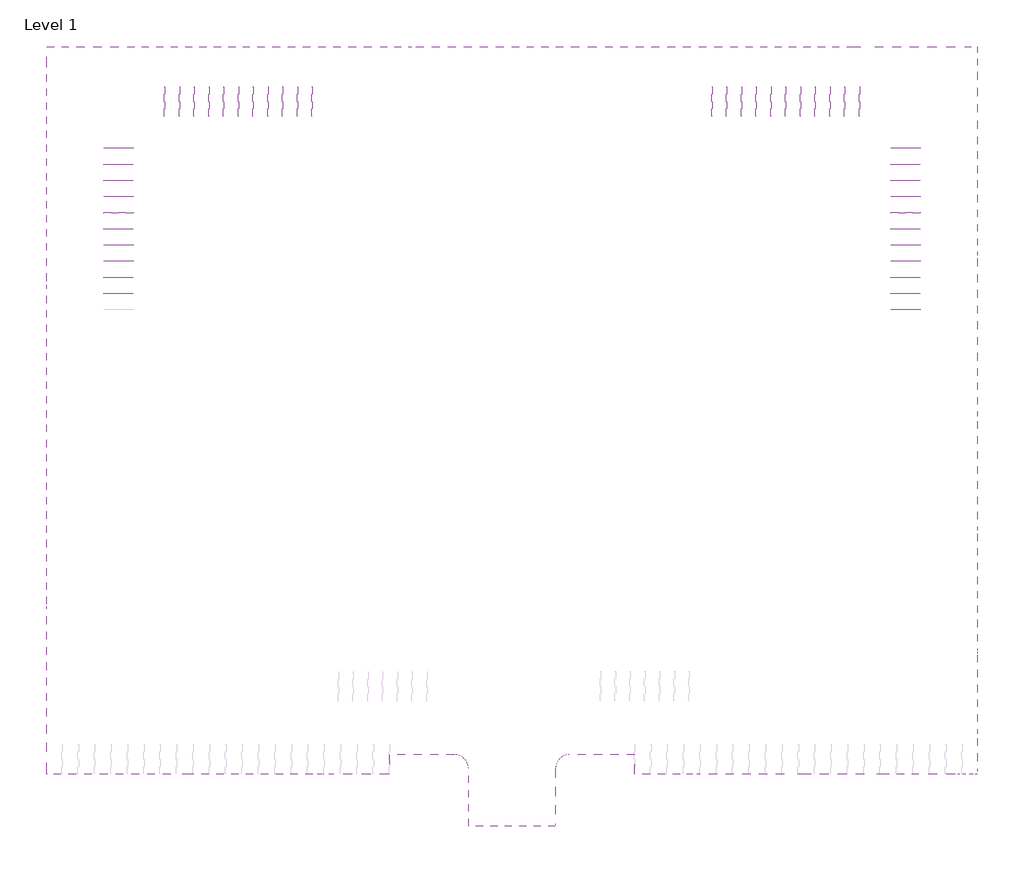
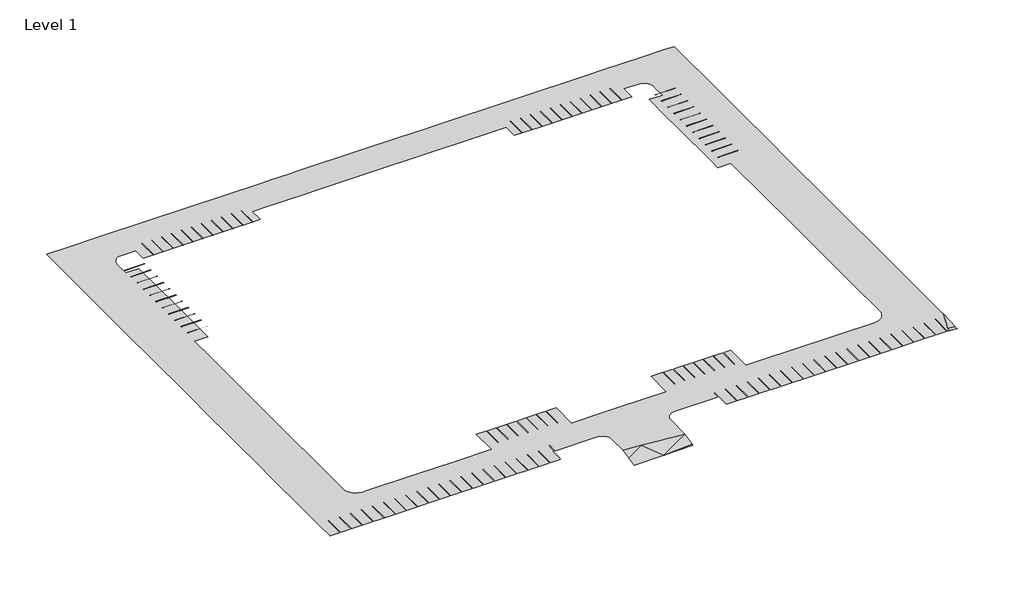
# One storey, part 2 of 2: 44 proxies.
"""IFC4 building model written with IfcOpenShell, lengths in millimetres."""

import ifcopenshell
import ifcopenshell.guid

model = None  # the IFC model being written
_history = None  # IfcOwnerHistory: only IFC2X3 demands one
_inside = {}  # id of a spatial element -> (the spatial element, [elements in it])
_under = {}  # id of a project, library or spatial element -> (it, [spatial elements below it])
_declared = {}  # id of a project -> (the project, [libraries it declares])
_typed = {}  # id of a type object -> (the type object, [elements of that type])
_made_of = {}  # id of a material, layer set ... -> (it, [elements and type objects made of it])


def new_model(schema):
    """Start an empty IFC model of exactly this schema.

    Asked for "IFC4X3", IfcOpenShell would pick the latest addendum, in which some entities
    have other attributes; the version numbers below select the first issue.
    IFC2X3 requires an IfcOwnerHistory on every rooted entity: one is made here for all.
    """
    global model, _history
    if schema == "IFC4X3":
        model = ifcopenshell.file(schema_version=(4, 3, 0, 0))
    else:
        model = ifcopenshell.file(schema=schema)
    _inside.clear()
    _under.clear()
    _declared.clear()
    _typed.clear()
    _made_of.clear()
    _history = None
    if model.schema == "IFC2X3":
        org = make("IfcOrganization", Name="unknown")
        user = make(
            "IfcPersonAndOrganization",
            ThePerson=make("IfcPerson", FamilyName="unknown"),
            TheOrganization=org,
        )
        app = make(
            "IfcApplication",
            ApplicationDeveloper=org,
            Version="unknown",
            ApplicationFullName="unknown",
            ApplicationIdentifier="unknown",
        )
        _history = make(
            "IfcOwnerHistory",
            OwningUser=user,
            OwningApplication=app,
            ChangeAction="ADDED",
            CreationDate=0,
        )
    return model


def make(cls, **values):
    """One entity of the class cls with the attributes given. An attribute that is None is left unset."""
    return model.create_entity(
        cls, **{name: value for name, value in values.items() if value is not None}
    )


def rooted(cls, **values):
    """An entity with a GlobalId (a new one), such as an element, a storey or a relation."""
    return make(cls, GlobalId=ifcopenshell.guid.new(), OwnerHistory=_history, **values)


def si_unit(unit_type, name, prefix=None):
    """IfcSIUnit, for example si_unit("LENGTHUNIT", "METRE", prefix="MILLI")."""
    return make("IfcSIUnit", UnitType=unit_type, Prefix=prefix, Name=name)


def assignment(units):
    """IfcUnitAssignment: the units of a project."""
    return None if units is None else make("IfcUnitAssignment", Units=units)


def point(xyz):
    """IfcCartesianPoint."""
    return None if xyz is None else make("IfcCartesianPoint", Coordinates=xyz)


def direction(xyz):
    """IfcDirection."""
    return None if xyz is None else make("IfcDirection", DirectionRatios=xyz)


def frame(location, z_axis=None, x_axis=None):
    """IfcAxis2Placement3D, a coordinate frame: its origin and axes. An axis left out is left unset."""
    return make(
        "IfcAxis2Placement3D",
        Location=point(location),
        Axis=direction(z_axis),
        RefDirection=direction(x_axis),
    )


def origin():
    """The frame at (0, 0, 0) with its axes left unset."""
    return frame((0.0, 0.0, 0.0))


def origin_with_axes():
    """The frame at (0, 0, 0) with the z axis (0, 0, 1) and the x axis (1, 0, 0) written out."""
    return frame((0.0, 0.0, 0.0), z_axis=(0.0, 0.0, 1.0), x_axis=(1.0, 0.0, 0.0))


def place(relative_to, where):
    """IfcLocalPlacement: puts the frame where relative to a parent placement (None: the world)."""
    return make(
        "IfcLocalPlacement", PlacementRelTo=relative_to, RelativePlacement=where
    )


def context(
    kind, dimensions, precision=None, world=None, true_north=None, identifier=None
):
    """IfcGeometricRepresentationContext, for example the 3D "Model" context."""
    return make(
        "IfcGeometricRepresentationContext",
        ContextIdentifier=identifier,
        ContextType=kind,
        CoordinateSpaceDimension=dimensions,
        Precision=precision,
        WorldCoordinateSystem=world,
        TrueNorth=true_north,
    )


def project(units=None, contexts=None):
    """IfcProject with its units and contexts."""
    return rooted(
        "IfcProject",
        Name="project",
        RepresentationContexts=contexts,
        UnitsInContext=assignment(units),
    )


def spatial(cls, under=None, at=None, **own):
    """A site, building, storey or space (cls), placed at a placement, below another one or the project."""
    s = rooted(cls, ObjectPlacement=at, **own)
    if under is not None:
        _under.setdefault(under.id(), (under, []))[1].append(s)
    return s


def polyline(points):
    """IfcPolyline through the points."""
    return make("IfcPolyline", Points=[point(p) for p in points])


def point_list(points):
    """IfcCartesianPointList2D or 3D."""
    cls = (
        "IfcCartesianPointList2D" if len(points[0]) == 2 else "IfcCartesianPointList3D"
    )
    return make(cls, CoordList=points)


def outline(outer, holes=None, kind="AREA"):
    """IfcArbitraryClosedProfileDef: a profile drawn as a closed curve; with holes, ...WithVoids."""
    if holes is None:
        return make("IfcArbitraryClosedProfileDef", ProfileType=kind, OuterCurve=outer)
    return make(
        "IfcArbitraryProfileDefWithVoids",
        ProfileType=kind,
        OuterCurve=outer,
        InnerCurves=holes,
    )


def extrude(swept, where, along, depth):
    """IfcExtrudedAreaSolid: the profile swept, set in the frame where, extruded along a direction by depth."""
    return make(
        "IfcExtrudedAreaSolid",
        SweptArea=swept,
        Position=where,
        ExtrudedDirection=direction(along),
        Depth=depth,
    )


def triangles(points, corners, closed=None, point_numbers=None):
    """IfcTriangulatedFaceSet: each triangle names its three corners, points numbered from 1."""
    return make(
        "IfcTriangulatedFaceSet",
        Coordinates=point_list(points),
        Closed=closed,
        CoordIndex=corners,
        PnIndex=point_numbers,
    )


def shape(context_of_items, identifier, shape_type, items):
    """IfcShapeRepresentation: the items that make up one representation, for example the "Body"."""
    return make(
        "IfcShapeRepresentation",
        ContextOfItems=context_of_items,
        RepresentationIdentifier=identifier,
        RepresentationType=shape_type,
        Items=items,
    )


def source(mapping_origin, context_of_items, identifier, shape_type, items):
    """IfcRepresentationMap: a shape defined once, which mapped items show again and again."""
    return make(
        "IfcRepresentationMap",
        MappingOrigin=mapping_origin,
        MappedRepresentation=shape(context_of_items, identifier, shape_type, items),
    )


def transform(
    local_origin,
    x_axis=None,
    y_axis=None,
    z_axis=None,
    scale=None,
    scale2=None,
    scale3=None,
    uniform=True,
):
    """IfcCartesianTransformationOperator3D, or its non-uniform kind. x_axis, y_axis, z_axis: its Axis1, 2, 3."""
    if uniform:
        return make(
            "IfcCartesianTransformationOperator3D",
            Axis1=direction(x_axis),
            Axis2=direction(y_axis),
            LocalOrigin=point(local_origin),
            Scale=scale,
            Axis3=direction(z_axis),
        )
    return make(
        "IfcCartesianTransformationOperator3DnonUniform",
        Axis1=direction(x_axis),
        Axis2=direction(y_axis),
        LocalOrigin=point(local_origin),
        Scale=scale,
        Axis3=direction(z_axis),
        Scale2=scale2,
        Scale3=scale3,
    )


def mapped(mapping_source, mapping_target):
    """IfcMappedItem: shows the shape of a source again, moved by a transform."""
    return make(
        "IfcMappedItem", MappingSource=mapping_source, MappingTarget=mapping_target
    )


def made_of(thing, what):
    """Note that an element or type object is made of a material, layer set ...; save() writes the relation."""
    if what is not None:
        _made_of.setdefault(what.id(), (what, []))[1].append(thing)
    return thing


def element(
    cls,
    number,
    at=None,
    inside=None,
    cuts=None,
    type_object=None,
    material=None,
    context=None,
    identifier="Body",
    shape_type=None,
    held_by="IfcProductDefinitionShape",
    body=None,
    shapes=None,
    **own,
):
    """One element of the class cls, such as IfcWall. Its Tag is "e" and its number.

    at: its placement. inside: the storey or other place that contains it. cuts: it is an
    opening in that element (IfcRelVoidsElement). A single representation is given by context,
    identifier, shape_type and body (its items); several are given by shapes. held_by: the class
    of the entity that holds the representations. save() writes the other relations.
    """
    e = rooted(cls, Tag="e%d" % number, ObjectPlacement=at, **own)
    if body is not None:
        shapes = [shape(context, identifier, shape_type, body)]
    if shapes is not None:
        e.Representation = make(held_by, Representations=shapes)
    if inside is not None:
        _inside.setdefault(inside.id(), (inside, []))[1].append(e)
    if cuts is not None:
        rooted(
            "IfcRelVoidsElement", RelatingBuildingElement=cuts, RelatedOpeningElement=e
        )
    if type_object is not None:
        _typed.setdefault(type_object.id(), (type_object, []))[1].append(e)
    return made_of(e, material)


def aggregate(whole, parts):
    """IfcRelAggregates: a whole, such as a stair, and the parts it consists of."""
    return rooted("IfcRelAggregates", RelatingObject=whole, RelatedObjects=parts)


def save(model, path):
    """Write the relations noted so far, then the file.

    IfcRelAggregates (storeys below a building ...), IfcRelContainedInSpatialStructure (elements
    in a storey), IfcRelDefinesByType, IfcRelAssociatesMaterial and IfcRelDeclares: one each for
    every whole, place, type object, material and project.
    """
    for whole, parts in _under.values():
        aggregate(whole, parts)
    for where, things in _inside.values():
        rooted(
            "IfcRelContainedInSpatialStructure",
            RelatedElements=things,
            RelatingStructure=where,
        )
    for kind, things in _typed.values():
        rooted("IfcRelDefinesByType", RelatedObjects=things, RelatingType=kind)
    for what, things in _made_of.values():
        rooted("IfcRelAssociatesMaterial", RelatedObjects=things, RelatingMaterial=what)
    for by, libraries in _declared.values():
        rooted("IfcRelDeclares", RelatingContext=by, RelatedDefinitions=libraries)
    model.write(path)


def parking_space_9_x_18_90_deg_9fe051ab(model_context):
    return source(origin(), model_context, "Body", "SweptSolid", [
        extrude(outline(polyline([(-50.8, 0.0), (-50.8, 5486.4), (50.8, 5486.4), (50.8, 0.0), (-50.8, 0.0)])), origin_with_axes(), (0.0, 0.0, 1.0), 3.175),
    ])


def parking_space_9_x_18_90_deg_b8b21359(model_context):
    return source(origin(), model_context, "Body", "SweptSolid", [
        extrude(outline(polyline([(-50.8, 0.0), (50.8, 0.0), (50.8, -5486.4), (-50.8, -5486.4), (-50.8, 0.0)])), origin_with_axes(), (0.0, 0.0, 1.0), 3.175),
    ])


model = new_model("IFC4")

# Units and contexts
model_context = context("Model", 3, world=origin())
ifc_project = project(units=[si_unit("LENGTHUNIT", "METRE", prefix="MILLI")], contexts=[model_context])

# Site, building, storey
site = spatial("IfcSite", under=ifc_project)
building = spatial("IfcBuilding", under=site)
storey = spatial("IfcBuildingStorey", under=building, Name="Level 1", Elevation=0.0)

# Proxies
placement = place(None, origin())
element("IfcBuildingElementProxy", 1, Name="Building Element Proxy", at=placement, inside=storey, context=model_context, shape_type="Tessellation", body=[
    triangles([(-7266.3832123, -16496.7267792, 3048.0), (-7266.3832123, -20380.1606689, 3048.0), (-7266.3832123, -54418.8829834, 3048.0), (-7266.3832123, -60128.3019287, 3048.0), (-7266.3832123, -61543.5829834, 3048.0), (-7266.3832123, -88173.7156494, 3048.0), (-7266.3832123, -91011.8493896, 3048.0), (-7266.3832123, -120184.8407959, 3048.0), (-7266.3832123, -121044.7417969, 3048.0), (-7266.3832123, -141013.6996582, 3048.0), (-7266.3832123, -147623.0729736, 3048.0), (-7266.3832123, -151728.0689209, 3048.0), (-7266.3832123, -151827.923291, 3048.0), (-7161.5361237, -151827.923291, 3048.0), (-4669.2658653, -151827.923291, 3048.0), (15803.962088, -151827.923291, 3048.0), (20149.888678, -151827.923291, 3048.0), (42239.7426636, -151827.923291, 3048.0), (43947.1547241, -151827.923291, 3048.0), (44244.815625, -151827.923291, 3048.0), (46178.4510864, -151827.923291, 3048.0), (56436.815625, -151827.923291, 3048.0), (56436.815625, -148170.323291, 3048.0), (68628.815625, -148170.323291, 3048.0), (69133.3801758, -148220.022583, 3048.0), (69618.5552124, -148367.1949951, 3048.0), (70065.6953613, -148606.2036621, 3048.0), (70457.615625, -148927.8398438, 3048.0), (70779.2564575, -149319.7601074, 3048.0), (71018.2604736, -149766.9049072, 3048.0), (71165.4375366, -150252.075293, 3048.0), (71215.1321777, -150756.6398438, 3048.0), (71215.1321777, -156099.1602539, 3048.0), (71215.1321777, -158752.4866699, 2573.6016312), (71215.1321777, -161484.6175781, 2026.8552074), (79296.815625, -161484.6175781, 2052.9405338), (87378.4990723, -161484.6175781, 2079.0257149), (87378.4990723, -161018.4692871, 2172.3091198), (87378.4990723, -157598.6594238, 3048.0), (87378.4990723, -150756.6398438, 3048.0), (87428.1983643, -150252.075293, 3048.0), (87575.3707764, -149766.9049072, 3048.0), (87814.3794434, -149319.7601074, 3048.0), (88136.015625, -148927.8398438, 3048.0), (88527.9358887, -148606.2036621, 3048.0), (88975.0806885, -148367.1949951, 3048.0), (89460.2510742, -148220.022583, 3048.0), (89964.815625, -148170.323291, 3048.0), (102156.815625, -148170.323291, 3048.0), (102156.815625, -151827.923291, 3048.0), (110603.6953857, -151827.923291, 3048.0), (112904.9223633, -151827.923291, 3048.0), (114348.815625, -151827.923291, 3048.0), (129890.4716309, -151827.923291, 3048.0), (134905.5143555, -151827.923291, 3048.0), (144849.2236816, -151827.923291, 3048.0), (149476.9412109, -151827.923291, 3048.0), (154978.8007324, -151827.923291, 3048.0), (161761.847168, -151827.923291, 3048.0), (162568.7560547, -151827.923291, 3048.0), (163648.1134277, -151827.923291, 3048.0), (165096.5087402, -151827.923291, 2848.7607079), (165860.015625, -151827.923291, 2746.1190079), (165860.015625, -150790.4796387, 2776.0046837), (165860.015625, -145125.318457, 3048.0), (165860.015625, -143477.2330078, 3048.0), (165860.015625, -129619.7625732, 3048.0), (165860.015625, -129088.3810547, 3048.0), (165860.015625, -128452.2989502, 3048.0), (165860.015625, -107139.0231445, 3048.0), (165860.015625, -105780.0177246, 3048.0), (165860.015625, -86181.5209717, 3048.0), (165860.015625, -84338.7032227, 3048.0), (165860.015625, -76369.6873169, 3048.0), (165860.015625, -55901.2669189, 3048.0), (165860.015625, -54667.816626, 3048.0), (165860.015625, -52212.1944214, 3048.0), (165860.015625, -33295.1095642, 3048.0), (165860.015625, -21149.3090698, 3048.0), (165860.015625, -18757.931781, 3048.0), (165860.015625, -16496.7267792, 3048.0), (163473.1845703, -16496.7267792, 3048.0), (156554.8533691, -16496.7267792, 3048.0), (146744.6149658, -16496.7267792, 3048.0), (141543.0999023, -16496.7267792, 3048.0), (122763.6229248, -16496.7267792, 3048.0), (99394.528418, -16496.7267792, 3048.0), (96662.5742432, -16496.7267792, 3048.0), (90194.0016357, -16496.7267792, 3048.0), (79296.815625, -16496.7267792, 3048.0), (61388.4761719, -16496.7267792, 3048.0), (59976.9251221, -16496.7267792, 3048.0), (54752.0068359, -16496.7267792, 3048.0), (51712.4900391, -16496.7267792, 3048.0), (31912.9892761, -16496.7267792, 3048.0), (7752.2936691, -16496.7267792, 3048.0), (-1700.1292202, -16496.7267792, 3048.0), (44244.815625, -29473.4800415, 3048.0), (44244.815625, -28640.2797363, 3048.0), (44244.815625, -25640.7256165, 3048.0), (46840.1734863, -25640.7256165, 3048.0), (59044.5959839, -25640.7256165, 3048.0), (62341.7156616, -25640.7256165, 3048.0), (79296.815625, -25640.7256165, 3048.0), (89265.3141357, -25640.7256165, 3048.0), (107230.645459, -25640.7256165, 3048.0), (114348.815625, -25640.7256165, 3048.0), (114348.815625, -29473.4800415, 3048.0), (121283.0249268, -29473.4800415, 3048.0), (137414.8030518, -29473.4800415, 3048.0), (146657.615625, -29473.4800415, 3048.0), (146657.615625, -25815.8800415, 3048.0), (147888.0614502, -25815.8800415, 3048.0), (151534.415625, -25815.8800415, 3048.0), (152015.2885986, -26094.2397949, 3048.0), (152440.6486816, -26451.713324, 3048.0), (152797.6408447, -26877.4826843, 3048.0), (153075.4564453, -27358.6695923, 3048.0), (153265.6866943, -27880.7167969, 3048.0), (153362.5831055, -28427.8299133, 3048.0), (153363.215625, -28983.4564636, 3048.0), (153363.215625, -32641.0564636, 3048.0), (152534.9871094, -32641.0564636, 3048.0), (149705.615625, -32641.0564636, 3048.0), (149705.615625, -40359.6341675, 3048.0), (149705.615625, -46324.0189453, 3048.0), (149705.615625, -62392.1218872, 3048.0), (149705.615625, -65472.6175781, 3048.0), (153265.8634277, -65472.6175781, 3048.0), (153363.215625, -65472.6175781, 3048.0), (153363.215625, -65556.8542969, 3048.0), (153363.215625, -94366.0818604, 3048.0), (153363.215625, -101028.1496338, 3048.0), (153363.215625, -116646.8055908, 3048.0), (153363.215625, -122665.1638184, 3048.0), (153363.215625, -136596.9273926, 3048.0), (153320.7624023, -137136.3735352, 3048.0), (153194.4352295, -137662.5460693, 3048.0), (152987.3594971, -138162.469043, 3048.0), (152975.0997803, -138182.4864258, 3048.0), (152704.6232666, -138623.854834, 3048.0), (152353.2028564, -139035.3273926, 3048.0), (151941.7302979, -139386.7571045, 3048.0), (151480.3445068, -139669.4840332, 3048.0), (150980.4215332, -139876.5597656, 3048.0), (150615.867041, -139964.0893066, 3048.0), (150454.248999, -140002.8869385, 3048.0), (149914.8028564, -140045.3401611, 3048.0), (139374.1253174, -140045.3401611, 3048.0), (126454.8952881, -140045.3401611, 3048.0), (120521.4062988, -140045.3401611, 3048.0), (114348.815625, -140045.3401611, 3048.0), (114348.815625, -132730.1401611, 3048.0), (105551.2875, -132730.1401611, 3048.0), (92403.215625, -132730.1401611, 3048.0), (92403.215625, -140045.3401611, 3048.0), (79296.815625, -140045.3401611, 3048.0), (77646.0931274, -140045.3401611, 3048.0), (74268.0621094, -140045.3401611, 3048.0), (66190.415625, -140045.3401611, 3048.0), (66190.415625, -132730.1401611, 3048.0), (48125.676416, -132730.1401611, 3048.0), (44244.815625, -132730.1401611, 3048.0), (44244.815625, -140045.3401611, 3048.0), (34024.9789673, -140045.3401611, 3048.0), (23805.6980896, -140045.3401611, 3048.0), (9656.0233978, -140045.3401611, 3048.0), (8678.8353699, -140045.3401611, 3048.0), (8139.3839951, -140002.8869385, 3048.0), (7613.2155304, -139876.5597656, 3048.0), (7113.2861618, -139669.4840332, 3048.0), (6651.9061844, -139386.7571045, 3048.0), (6240.4353699, -139035.3273926, 3048.0), (5889.0062393, -138623.854834, 3048.0), (5606.2723343, -138162.469043, 3048.0), (5399.1948578, -137662.5460693, 3048.0), (5272.8729172, -137136.3735352, 3048.0), (5230.4167877, -136596.9273926, 3048.0), (5230.4167877, -135076.2388184, 3048.0), (5230.4167877, -128172.4834717, 3048.0), (5230.4167877, -105851.7993896, 3048.0), (5230.4167877, -73730.6949097, 3048.0), (5230.4167877, -65472.6175781, 3048.0), (8888.0167877, -65472.6175781, 3048.0), (8888.0167877, -49205.1826172, 3048.0), (8888.0167877, -42138.1721191, 3048.0), (8888.0167877, -32641.0564636, 3048.0), (5230.4167877, -32641.0564636, 3048.0), (5230.4167877, -28983.4564636, 3048.0), (5231.0481445, -28427.8299133, 3048.0), (5327.9462997, -27880.7167969, 3048.0), (5518.1794556, -27358.6695923, 3048.0), (5795.9927307, -26877.4826843, 3048.0), (6152.981987, -26451.713324, 3048.0), (6578.3461395, -26094.2397949, 3048.0), (7059.2167877, -25815.8800415, 3048.0), (11936.0167877, -25815.8800415, 3048.0), (11936.0167877, -29473.4800415, 3048.0), (20260.3935608, -29473.4800415, 3048.0), (34722.3084961, -29473.4800415, 3048.0), (43523.8921875, -29473.4800415, 3048.0), (163836.7530762, -150790.4796387, 3048.0), (75979.1111572, -156458.7104004, 3048.0)], [[12, 13, 14], [12, 14, 15], [11, 12, 15], [11, 173, 10], [173, 11, 15], [167, 168, 16], [17, 166, 16], [19, 164, 18], [17, 18, 165], [164, 19, 20], [15, 16, 169], [16, 168, 169], [173, 174, 10], [172, 173, 15], [176, 177, 10], [175, 176, 10], [174, 175, 10], [166, 167, 16], [165, 166, 17], [170, 171, 15], [170, 15, 169], [165, 18, 164], [172, 15, 171], [20, 21, 164], [10, 177, 178], [33, 203, 32], [34, 203, 33], [23, 21, 22], [34, 35, 203], [36, 37, 38], [36, 38, 39], [203, 39, 40], [39, 203, 36], [32, 203, 31], [36, 203, 35], [41, 31, 203], [159, 25, 26], [160, 25, 159], [23, 24, 160], [160, 24, 25], [23, 162, 164], [26, 27, 159], [30, 31, 157], [29, 30, 158], [28, 159, 27], [28, 29, 159], [159, 29, 158], [30, 157, 158], [157, 31, 41], [160, 162, 23], [23, 164, 21], [8, 9, 180], [7, 8, 181], [5, 6, 182], [4, 5, 183], [7, 182, 6], [180, 9, 10], [180, 181, 8], [5, 182, 183], [7, 181, 182], [183, 185, 3], [10, 179, 180], [10, 178, 179], [4, 183, 3], [2, 3, 188], [186, 188, 3], [2, 188, 189], [1, 2, 97], [192, 97, 2], [2, 189, 190], [191, 192, 2], [190, 191, 2], [193, 194, 97], [97, 195, 96], [194, 195, 97], [192, 193, 97], [96, 195, 196], [3, 185, 186], [188, 186, 187], [197, 198, 199], [164, 162, 163], [100, 200, 201], [98, 99, 201], [199, 200, 95], [201, 99, 100], [100, 95, 200], [100, 101, 94], [199, 95, 197], [95, 96, 197], [94, 95, 100], [101, 102, 94], [96, 196, 197], [91, 102, 103], [90, 103, 104], [92, 93, 102], [90, 91, 103], [92, 102, 91], [90, 104, 105], [102, 93, 94], [185, 183, 184], [160, 161, 162], [203, 40, 41], [157, 44, 45], [44, 157, 43], [49, 50, 51], [43, 157, 42], [149, 55, 56], [55, 150, 54], [53, 54, 151], [52, 53, 152], [52, 152, 51], [148, 149, 56], [46, 47, 156], [46, 156, 157], [156, 48, 49], [155, 156, 154], [156, 47, 48], [45, 46, 157], [150, 151, 54], [150, 55, 149], [151, 152, 53], [153, 154, 152], [152, 49, 51], [154, 49, 152], [49, 154, 156], [56, 57, 148], [58, 145, 146], [59, 65, 58], [148, 57, 147], [147, 57, 146], [59, 60, 202], [57, 58, 146], [202, 61, 62], [64, 62, 63], [65, 59, 202], [142, 58, 65], [64, 65, 202], [202, 62, 64], [61, 202, 60], [66, 142, 65], [144, 145, 58], [143, 144, 58], [142, 66, 141], [141, 66, 140], [58, 142, 143], [139, 66, 138], [138, 66, 137], [67, 68, 135], [136, 67, 135], [137, 66, 136], [140, 66, 139], [66, 67, 136], [135, 68, 69], [76, 126, 127], [112, 110, 111], [86, 109, 110], [107, 108, 109], [125, 123, 124], [122, 123, 125], [83, 115, 116], [77, 125, 126], [127, 128, 129], [87, 105, 106], [87, 106, 107], [88, 89, 105], [87, 88, 105], [107, 86, 87], [105, 89, 90], [110, 112, 85], [112, 113, 84], [110, 85, 86], [83, 84, 114], [84, 85, 112], [114, 84, 113], [83, 114, 115], [86, 107, 109], [116, 117, 83], [74, 131, 132], [133, 71, 132], [75, 130, 131], [75, 127, 130], [70, 133, 134], [70, 71, 133], [134, 69, 70], [71, 72, 132], [73, 132, 72], [75, 131, 74], [74, 132, 73], [135, 69, 134], [129, 130, 127], [127, 75, 76], [78, 120, 121], [79, 119, 120], [117, 79, 83], [119, 79, 118], [79, 117, 118], [121, 122, 78], [79, 120, 78], [122, 125, 78], [82, 79, 80], [82, 83, 79], [80, 81, 82], [77, 78, 125], [76, 77, 126], [42, 157, 41]], closed=False),
])
parking_space_9_x_18_90_deg_shape = parking_space_9_x_18_90_deg_9fe051ab(model_context)
element("IfcBuildingElementProxy", 2, Name="Parking Space : 9' x 18' - 90 deg", ObjectType="Parking Space : 9' x 18' - 90 deg", at=placement, inside=storey, context=model_context, shape_type="MappedRepresentation", body=[
    mapped(parking_space_9_x_18_90_deg_shape, transform((8862.6170127, -35394.8134629, 6097.5607373), x_axis=(0.0, 1.0000000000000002, 0.0), y_axis=(-1.0000000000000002, 0.0, 0.0), z_axis=(0.0, 0.0, 1.0))),
])
element("IfcBuildingElementProxy", 3, Name="Parking Space : 9' x 18' - 90 deg", ObjectType="Parking Space : 9' x 18' - 90 deg", at=placement, inside=storey, context=model_context, shape_type="MappedRepresentation", body=[
    mapped(parking_space_9_x_18_90_deg_shape, transform((8862.6170127, -38397.0934629, 6097.5607373), x_axis=(0.0, 1.0, 0.0), y_axis=(-1.0, 0.0, 0.0), z_axis=(0.0, 0.0, 1.0))),
])
element("IfcBuildingElementProxy", 4, Name="Parking Space : 9' x 18' - 90 deg", ObjectType="Parking Space : 9' x 18' - 90 deg", at=placement, inside=storey, context=model_context, shape_type="MappedRepresentation", body=[
    mapped(parking_space_9_x_18_90_deg_shape, transform((8862.6170127, -41399.3734629, 6097.5607373), x_axis=(0.0, 1.0, 0.0), y_axis=(-1.0, 0.0, 0.0), z_axis=(0.0, 0.0, 1.0))),
])
element("IfcBuildingElementProxy", 5, Name="Parking Space : 9' x 18' - 90 deg", ObjectType="Parking Space : 9' x 18' - 90 deg", at=placement, inside=storey, context=model_context, shape_type="MappedRepresentation", body=[
    mapped(parking_space_9_x_18_90_deg_shape, transform((8862.6170127, -44401.6534629, 6097.5607373), x_axis=(0.0, 1.0, 0.0), y_axis=(-1.0, 0.0, 0.0), z_axis=(0.0, 0.0, 1.0))),
])
element("IfcBuildingElementProxy", 6, Name="Parking Space : 9' x 18' - 90 deg", ObjectType="Parking Space : 9' x 18' - 90 deg", at=placement, inside=storey, context=model_context, shape_type="MappedRepresentation", body=[
    mapped(parking_space_9_x_18_90_deg_shape, transform((8862.6170127, -47403.9334629, 6097.5607373), x_axis=(0.0, 1.0, 0.0), y_axis=(-1.0, 0.0, 0.0), z_axis=(0.0, 0.0, 1.0))),
])
element("IfcBuildingElementProxy", 7, Name="Parking Space : 9' x 18' - 90 deg", ObjectType="Parking Space : 9' x 18' - 90 deg", at=placement, inside=storey, context=model_context, shape_type="MappedRepresentation", body=[
    mapped(parking_space_9_x_18_90_deg_shape, transform((8862.6170127, -50406.2134629, 6097.5607373), x_axis=(0.0, 1.0, 0.0), y_axis=(-1.0, 0.0, 0.0), z_axis=(0.0, 0.0, 1.0))),
])
element("IfcBuildingElementProxy", 8, Name="Parking Space : 9' x 18' - 90 deg", ObjectType="Parking Space : 9' x 18' - 90 deg", at=placement, inside=storey, context=model_context, shape_type="MappedRepresentation", body=[
    mapped(parking_space_9_x_18_90_deg_shape, transform((8862.6170127, -53408.4934629, 6097.5607373), x_axis=(0.0, 1.0, 0.0), y_axis=(-1.0, 0.0, 0.0), z_axis=(0.0, 0.0, 1.0))),
])
element("IfcBuildingElementProxy", 9, Name="Parking Space : 9' x 18' - 90 deg", ObjectType="Parking Space : 9' x 18' - 90 deg", at=placement, inside=storey, context=model_context, shape_type="MappedRepresentation", body=[
    mapped(parking_space_9_x_18_90_deg_shape, transform((8862.6170127, -56410.7734629, 6097.5607373), x_axis=(0.0, 1.0, 0.0), y_axis=(-1.0, 0.0, 0.0), z_axis=(0.0, 0.0, 1.0))),
])
element("IfcBuildingElementProxy", 10, Name="Parking Space : 9' x 18' - 90 deg", ObjectType="Parking Space : 9' x 18' - 90 deg", at=placement, inside=storey, context=model_context, shape_type="MappedRepresentation", body=[
    mapped(parking_space_9_x_18_90_deg_shape, transform((8862.6170127, -59413.0534629, 6097.5607373), x_axis=(0.0, 1.0, 0.0), y_axis=(-1.0, 0.0, 0.0), z_axis=(0.0, 0.0, 1.0))),
])
element("IfcBuildingElementProxy", 11, Name="Parking Space : 9' x 18' - 90 deg", ObjectType="Parking Space : 9' x 18' - 90 deg", at=placement, inside=storey, context=model_context, shape_type="MappedRepresentation", body=[
    mapped(parking_space_9_x_18_90_deg_shape, transform((8862.6170127, -62415.3334629, 6097.5607373), x_axis=(0.0, 1.0, 0.0), y_axis=(-1.0, 0.0, 0.0), z_axis=(0.0, 0.0, 1.0))),
])
element("IfcBuildingElementProxy", 12, Name="Parking Space : 9' x 18' - 90 deg", ObjectType="Parking Space : 9' x 18' - 90 deg", at=placement, inside=storey, context=model_context, shape_type="MappedRepresentation", body=[
    mapped(parking_space_9_x_18_90_deg_shape, transform((143889.0170127, -29471.2693449, 3048.7803686), x_axis=(1.0, 0.0, 0.0), y_axis=(0.0, 1.0, 0.0), z_axis=(0.0, 0.0, 1.0))),
])
element("IfcBuildingElementProxy", 13, Name="Parking Space : 9' x 18' - 90 deg", ObjectType="Parking Space : 9' x 18' - 90 deg", at=placement, inside=storey, context=model_context, shape_type="MappedRepresentation", body=[
    mapped(parking_space_9_x_18_90_deg_shape, transform((141145.8170127, -29471.2693449, 3048.7803686), x_axis=(1.0, 0.0, 0.0), y_axis=(0.0, 1.0, 0.0), z_axis=(0.0, 0.0, 1.0))),
])
element("IfcBuildingElementProxy", 14, Name="Parking Space : 9' x 18' - 90 deg", ObjectType="Parking Space : 9' x 18' - 90 deg", at=placement, inside=storey, context=model_context, shape_type="MappedRepresentation", body=[
    mapped(parking_space_9_x_18_90_deg_shape, transform((138402.6170127, -29471.2693449, 3048.7803686), x_axis=(1.0, 0.0, 0.0), y_axis=(0.0, 1.0, 0.0), z_axis=(0.0, 0.0, 1.0))),
])
element("IfcBuildingElementProxy", 15, Name="Parking Space : 9' x 18' - 90 deg", ObjectType="Parking Space : 9' x 18' - 90 deg", at=placement, inside=storey, context=model_context, shape_type="MappedRepresentation", body=[
    mapped(parking_space_9_x_18_90_deg_shape, transform((135659.4170127, -29471.2693449, 3048.7803686), x_axis=(1.0, 0.0, 0.0), y_axis=(0.0, 1.0, 0.0), z_axis=(0.0, 0.0, 1.0))),
])
element("IfcBuildingElementProxy", 16, Name="Parking Space : 9' x 18' - 90 deg", ObjectType="Parking Space : 9' x 18' - 90 deg", at=placement, inside=storey, context=model_context, shape_type="MappedRepresentation", body=[
    mapped(parking_space_9_x_18_90_deg_shape, transform((132916.2170127, -29471.2693449, 3048.7803686), x_axis=(1.0, 0.0, 0.0), y_axis=(0.0, 1.0, 0.0), z_axis=(0.0, 0.0, 1.0))),
])
element("IfcBuildingElementProxy", 17, Name="Parking Space : 9' x 18' - 90 deg", ObjectType="Parking Space : 9' x 18' - 90 deg", at=placement, inside=storey, context=model_context, shape_type="MappedRepresentation", body=[
    mapped(parking_space_9_x_18_90_deg_shape, transform((130173.0170127, -29471.2693449, 3048.7803686), x_axis=(1.0, 0.0, 0.0), y_axis=(0.0, 1.0, 0.0), z_axis=(0.0, 0.0, 1.0))),
])
element("IfcBuildingElementProxy", 18, Name="Parking Space : 9' x 18' - 90 deg", ObjectType="Parking Space : 9' x 18' - 90 deg", at=placement, inside=storey, context=model_context, shape_type="MappedRepresentation", body=[
    mapped(parking_space_9_x_18_90_deg_shape, transform((127429.8170127, -29471.2693449, 3048.7803686), x_axis=(1.0, 0.0, 0.0), y_axis=(0.0, 1.0, 0.0), z_axis=(0.0, 0.0, 1.0))),
])
element("IfcBuildingElementProxy", 19, Name="Parking Space : 9' x 18' - 90 deg", ObjectType="Parking Space : 9' x 18' - 90 deg", at=placement, inside=storey, context=model_context, shape_type="MappedRepresentation", body=[
    mapped(parking_space_9_x_18_90_deg_shape, transform((124686.6170127, -29471.2693449, 3048.7803686), x_axis=(1.0, 0.0, 0.0), y_axis=(0.0, 1.0, 0.0), z_axis=(0.0, 0.0, 1.0))),
])
element("IfcBuildingElementProxy", 20, Name="Parking Space : 9' x 18' - 90 deg", ObjectType="Parking Space : 9' x 18' - 90 deg", at=placement, inside=storey, context=model_context, shape_type="MappedRepresentation", body=[
    mapped(parking_space_9_x_18_90_deg_shape, transform((121943.4170127, -29471.2693449, 3048.7803686), x_axis=(1.0, 0.0, 0.0), y_axis=(0.0, 1.0, 0.0), z_axis=(0.0, 0.0, 1.0))),
])
element("IfcBuildingElementProxy", 21, Name="Parking Space : 9' x 18' - 90 deg", ObjectType="Parking Space : 9' x 18' - 90 deg", at=placement, inside=storey, context=model_context, shape_type="MappedRepresentation", body=[
    mapped(parking_space_9_x_18_90_deg_shape, transform((119200.2170127, -29471.2693449, 3048.7803686), x_axis=(1.0, 0.0, 0.0), y_axis=(0.0, 1.0, 0.0), z_axis=(0.0, 0.0, 1.0))),
])
element("IfcBuildingElementProxy", 22, Name="Parking Space : 9' x 18' - 90 deg", ObjectType="Parking Space : 9' x 18' - 90 deg", at=placement, inside=storey, context=model_context, shape_type="MappedRepresentation", body=[
    mapped(parking_space_9_x_18_90_deg_shape, transform((116457.0170127, -29471.2693449, 3048.7803686), x_axis=(1.0, 0.0, 0.0), y_axis=(0.0, 1.0, 0.0), z_axis=(0.0, 0.0, 1.0))),
])
parking_space_9_x_18_90_deg_2_shape = parking_space_9_x_18_90_deg_b8b21359(model_context)
element("IfcBuildingElementProxy", 23, Name="Parking Space : 9' x 18' - 90 deg", ObjectType="Parking Space : 9' x 18' - 90 deg", at=placement, inside=storey, context=model_context, shape_type="MappedRepresentation", body=[
    mapped(parking_space_9_x_18_90_deg_2_shape, transform((14704.6170127, -29471.2693449, 3048.7803686), x_axis=(-1.0, 0.0, 0.0), y_axis=(0.0, -1.0, 0.0), z_axis=(0.0, 0.0, 1.0))),
])
element("IfcBuildingElementProxy", 24, Name="Parking Space : 9' x 18' - 90 deg", ObjectType="Parking Space : 9' x 18' - 90 deg", at=placement, inside=storey, context=model_context, shape_type="MappedRepresentation", body=[
    mapped(parking_space_9_x_18_90_deg_2_shape, transform((17447.8170127, -29471.2693449, 3048.7803686), x_axis=(-1.0, 0.0, 0.0), y_axis=(0.0, -1.0, 0.0), z_axis=(0.0, 0.0, 1.0))),
])
element("IfcBuildingElementProxy", 25, Name="Parking Space : 9' x 18' - 90 deg", ObjectType="Parking Space : 9' x 18' - 90 deg", at=placement, inside=storey, context=model_context, shape_type="MappedRepresentation", body=[
    mapped(parking_space_9_x_18_90_deg_2_shape, transform((20191.0170127, -29471.2693449, 3048.7803686), x_axis=(-1.0, 0.0, 0.0), y_axis=(0.0, -1.0, 0.0), z_axis=(0.0, 0.0, 1.0))),
])
element("IfcBuildingElementProxy", 26, Name="Parking Space : 9' x 18' - 90 deg", ObjectType="Parking Space : 9' x 18' - 90 deg", at=placement, inside=storey, context=model_context, shape_type="MappedRepresentation", body=[
    mapped(parking_space_9_x_18_90_deg_2_shape, transform((22934.2170127, -29471.2693449, 3048.7803686), x_axis=(-1.0, 0.0, 0.0), y_axis=(0.0, -1.0, 0.0), z_axis=(0.0, 0.0, 1.0))),
])
element("IfcBuildingElementProxy", 27, Name="Parking Space : 9' x 18' - 90 deg", ObjectType="Parking Space : 9' x 18' - 90 deg", at=placement, inside=storey, context=model_context, shape_type="MappedRepresentation", body=[
    mapped(parking_space_9_x_18_90_deg_2_shape, transform((25677.4170127, -29471.2693449, 3048.7803686), x_axis=(-1.0, 0.0, 0.0), y_axis=(0.0, -1.0, 0.0), z_axis=(0.0, 0.0, 1.0))),
])
element("IfcBuildingElementProxy", 28, Name="Parking Space : 9' x 18' - 90 deg", ObjectType="Parking Space : 9' x 18' - 90 deg", at=placement, inside=storey, context=model_context, shape_type="MappedRepresentation", body=[
    mapped(parking_space_9_x_18_90_deg_2_shape, transform((28420.6170127, -29471.2693449, 3048.7803686), x_axis=(-1.0, 0.0, 0.0), y_axis=(0.0, -1.0, 0.0), z_axis=(0.0, 0.0, 1.0))),
])
element("IfcBuildingElementProxy", 29, Name="Parking Space : 9' x 18' - 90 deg", ObjectType="Parking Space : 9' x 18' - 90 deg", at=placement, inside=storey, context=model_context, shape_type="MappedRepresentation", body=[
    mapped(parking_space_9_x_18_90_deg_2_shape, transform((31163.8170127, -29471.2693449, 3048.7803686), x_axis=(-1.0, 0.0, 0.0), y_axis=(0.0, -1.0, 0.0), z_axis=(0.0, 0.0, 1.0))),
])
element("IfcBuildingElementProxy", 30, Name="Parking Space : 9' x 18' - 90 deg", ObjectType="Parking Space : 9' x 18' - 90 deg", at=placement, inside=storey, context=model_context, shape_type="MappedRepresentation", body=[
    mapped(parking_space_9_x_18_90_deg_2_shape, transform((33907.0170127, -29471.2693449, 3048.7803686), x_axis=(-1.0, 0.0, 0.0), y_axis=(0.0, -1.0, 0.0), z_axis=(0.0, 0.0, 1.0))),
])
element("IfcBuildingElementProxy", 31, Name="Parking Space : 9' x 18' - 90 deg", ObjectType="Parking Space : 9' x 18' - 90 deg", at=placement, inside=storey, context=model_context, shape_type="MappedRepresentation", body=[
    mapped(parking_space_9_x_18_90_deg_2_shape, transform((36650.2170127, -29471.2693449, 3048.7803686), x_axis=(-1.0, 0.0, 0.0), y_axis=(0.0, -1.0, 0.0), z_axis=(0.0, 0.0, 1.0))),
])
element("IfcBuildingElementProxy", 32, Name="Parking Space : 9' x 18' - 90 deg", ObjectType="Parking Space : 9' x 18' - 90 deg", at=placement, inside=storey, context=model_context, shape_type="MappedRepresentation", body=[
    mapped(parking_space_9_x_18_90_deg_2_shape, transform((39393.4170127, -29471.2693449, 3048.7803686), x_axis=(-1.0, 0.0, 0.0), y_axis=(0.0, -1.0, 0.0), z_axis=(0.0, 0.0, 1.0))),
])
element("IfcBuildingElementProxy", 33, Name="Parking Space : 9' x 18' - 90 deg", ObjectType="Parking Space : 9' x 18' - 90 deg", at=placement, inside=storey, context=model_context, shape_type="MappedRepresentation", body=[
    mapped(parking_space_9_x_18_90_deg_2_shape, transform((42136.6170127, -29471.2693449, 3048.7803686), x_axis=(-1.0, 0.0, 0.0), y_axis=(0.0, -1.0, 0.0), z_axis=(0.0, 0.0, 1.0))),
])
element("IfcBuildingElementProxy", 34, Name="Parking Space : 9' x 18' - 90 deg", ObjectType="Parking Space : 9' x 18' - 90 deg", at=placement, inside=storey, context=model_context, shape_type="MappedRepresentation", body=[
    mapped(parking_space_9_x_18_90_deg_2_shape, transform((149731.0170127, -35394.8134629, 6097.5607373), x_axis=(0.0, 1.0, 0.0), y_axis=(-1.0, 0.0, 0.0), z_axis=(0.0, 0.0, 1.0))),
])
element("IfcBuildingElementProxy", 35, Name="Parking Space : 9' x 18' - 90 deg", ObjectType="Parking Space : 9' x 18' - 90 deg", at=placement, inside=storey, context=model_context, shape_type="MappedRepresentation", body=[
    mapped(parking_space_9_x_18_90_deg_2_shape, transform((149731.0170127, -38397.0934629, 6097.5607373), x_axis=(0.0, 1.0, 0.0), y_axis=(-1.0, 0.0, 0.0), z_axis=(0.0, 0.0, 1.0))),
])
element("IfcBuildingElementProxy", 36, Name="Parking Space : 9' x 18' - 90 deg", ObjectType="Parking Space : 9' x 18' - 90 deg", at=placement, inside=storey, context=model_context, shape_type="MappedRepresentation", body=[
    mapped(parking_space_9_x_18_90_deg_2_shape, transform((149731.0170127, -41399.3734629, 6097.5607373), x_axis=(0.0, 1.0, 0.0), y_axis=(-1.0, 0.0, 0.0), z_axis=(0.0, 0.0, 1.0))),
])
element("IfcBuildingElementProxy", 37, Name="Parking Space : 9' x 18' - 90 deg", ObjectType="Parking Space : 9' x 18' - 90 deg", at=placement, inside=storey, context=model_context, shape_type="MappedRepresentation", body=[
    mapped(parking_space_9_x_18_90_deg_2_shape, transform((149731.0170127, -44401.6534629, 6097.5607373), x_axis=(0.0, 1.0, 0.0), y_axis=(-1.0, 0.0, 0.0), z_axis=(0.0, 0.0, 1.0))),
])
element("IfcBuildingElementProxy", 38, Name="Parking Space : 9' x 18' - 90 deg", ObjectType="Parking Space : 9' x 18' - 90 deg", at=placement, inside=storey, context=model_context, shape_type="MappedRepresentation", body=[
    mapped(parking_space_9_x_18_90_deg_2_shape, transform((149731.0170127, -47403.9334629, 6097.5607373), x_axis=(0.0, 1.0, 0.0), y_axis=(-1.0, 0.0, 0.0), z_axis=(0.0, 0.0, 1.0))),
])
element("IfcBuildingElementProxy", 39, Name="Parking Space : 9' x 18' - 90 deg", ObjectType="Parking Space : 9' x 18' - 90 deg", at=placement, inside=storey, context=model_context, shape_type="MappedRepresentation", body=[
    mapped(parking_space_9_x_18_90_deg_2_shape, transform((149731.0170127, -50406.2134629, 6097.5607373), x_axis=(0.0, 1.0, 0.0), y_axis=(-1.0, 0.0, 0.0), z_axis=(0.0, 0.0, 1.0))),
])
element("IfcBuildingElementProxy", 40, Name="Parking Space : 9' x 18' - 90 deg", ObjectType="Parking Space : 9' x 18' - 90 deg", at=placement, inside=storey, context=model_context, shape_type="MappedRepresentation", body=[
    mapped(parking_space_9_x_18_90_deg_2_shape, transform((149731.0170127, -53408.4934629, 6097.5607373), x_axis=(0.0, 1.0, 0.0), y_axis=(-1.0, 0.0, 0.0), z_axis=(0.0, 0.0, 1.0))),
])
element("IfcBuildingElementProxy", 41, Name="Parking Space : 9' x 18' - 90 deg", ObjectType="Parking Space : 9' x 18' - 90 deg", at=placement, inside=storey, context=model_context, shape_type="MappedRepresentation", body=[
    mapped(parking_space_9_x_18_90_deg_2_shape, transform((149731.0170127, -56410.7734629, 6097.5607373), x_axis=(0.0, 1.0, 0.0), y_axis=(-1.0, 0.0, 0.0), z_axis=(0.0, 0.0, 1.0))),
])
element("IfcBuildingElementProxy", 42, Name="Parking Space : 9' x 18' - 90 deg", ObjectType="Parking Space : 9' x 18' - 90 deg", at=placement, inside=storey, context=model_context, shape_type="MappedRepresentation", body=[
    mapped(parking_space_9_x_18_90_deg_2_shape, transform((149731.0170127, -59413.0534629, 6097.5607373), x_axis=(0.0, 1.0, 0.0), y_axis=(-1.0, 0.0, 0.0), z_axis=(0.0, 0.0, 1.0))),
])
element("IfcBuildingElementProxy", 43, Name="Parking Space : 9' x 18' - 90 deg", ObjectType="Parking Space : 9' x 18' - 90 deg", at=placement, inside=storey, context=model_context, shape_type="MappedRepresentation", body=[
    mapped(parking_space_9_x_18_90_deg_2_shape, transform((149731.0170127, -62415.3334629, 6097.5607373), x_axis=(0.0, 1.0, 0.0), y_axis=(-1.0, 0.0, 0.0), z_axis=(0.0, 0.0, 1.0))),
])
element("IfcBuildingElementProxy", 44, Name="Parking Space : 9' x 18' - 90 deg", ObjectType="Parking Space : 9' x 18' - 90 deg", at=placement, inside=storey, context=model_context, shape_type="MappedRepresentation", body=[
    mapped(parking_space_9_x_18_90_deg_2_shape, transform((149731.0170127, -65417.6134629, 6097.5607373), x_axis=(0.0, 1.0, 0.0), y_axis=(-1.0, 0.0, 0.0), z_axis=(0.0, 0.0, 1.0))),
])

save(model, "model.ifc")
